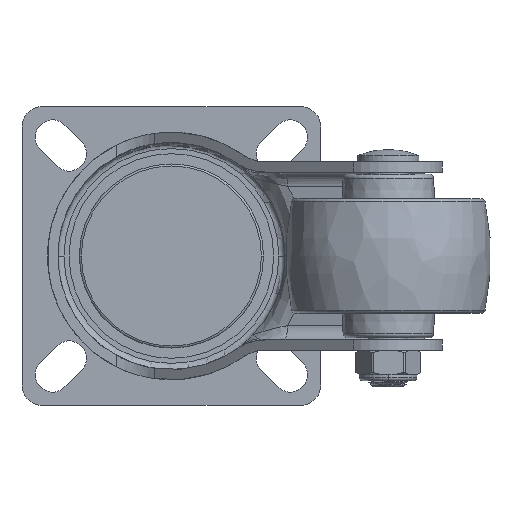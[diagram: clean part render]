
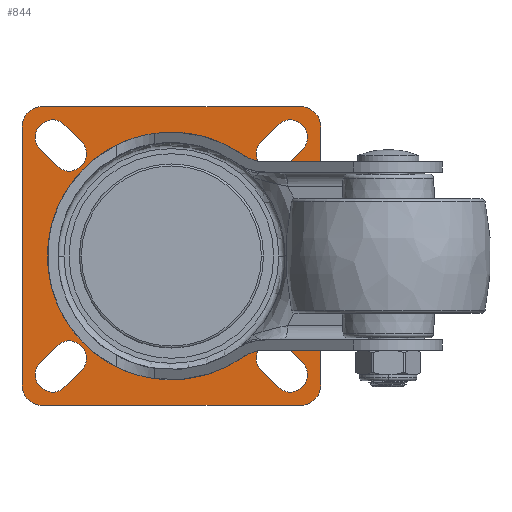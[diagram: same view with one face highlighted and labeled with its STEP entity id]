
A CAD part, front view. The second image highlights one B-rep face of the part: STEP entity #844.
In plain terms, the highlighted planar face has unit normal (0, -1, 0).
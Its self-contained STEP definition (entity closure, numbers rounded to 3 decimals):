
#1=CARTESIAN_POINT('',(-29.,-3.,-29.));
#2=DIRECTION('',(0.,1.,0.));
#3=DIRECTION('',(0.707,0.,-0.707));
#4=AXIS2_PLACEMENT_3D('',#1,#2,#3);
#6=DIRECTION('',(-0.707,0.,-0.707));
#7=VECTOR('',#6,5.657);
#8=CARTESIAN_POINT('',(-21.995,-3.,-28.005));
#9=LINE('',#8,#7);
#10=CARTESIAN_POINT('',(-25.,-3.,-25.));
#11=DIRECTION('',(0.,1.,0.));
#12=DIRECTION('',(-0.707,0.,0.707));
#13=AXIS2_PLACEMENT_3D('',#10,#11,#12);
#15=DIRECTION('',(0.707,0.,0.707));
#16=VECTOR('',#15,5.657);
#17=CARTESIAN_POINT('',(-32.005,-3.,-25.995));
#18=LINE('',#17,#16);
#19=DIRECTION('',(-0.707,0.,0.707));
#20=VECTOR('',#19,5.657);
#21=CARTESIAN_POINT('',(25.995,-3.,-32.005));
#22=LINE('',#21,#20);
#23=CARTESIAN_POINT('',(29.,-3.,-29.));
#24=DIRECTION('',(0.,1.,0.));
#25=DIRECTION('',(0.707,0.,0.707));
#26=AXIS2_PLACEMENT_3D('',#23,#24,#25);
#28=DIRECTION('',(0.707,0.,-0.707));
#29=VECTOR('',#28,5.657);
#30=CARTESIAN_POINT('',(28.005,-3.,-21.995));
#31=LINE('',#30,#29);
#32=CARTESIAN_POINT('',(25.,-3.,-25.));
#33=DIRECTION('',(0.,1.,0.));
#34=DIRECTION('',(-0.707,0.,-0.707));
#35=AXIS2_PLACEMENT_3D('',#32,#33,#34);
#37=CARTESIAN_POINT('',(29.,-3.,29.));
#38=DIRECTION('',(0.,1.,0.));
#39=DIRECTION('',(-0.707,0.,0.707));
#40=AXIS2_PLACEMENT_3D('',#37,#38,#39);
#42=DIRECTION('',(0.707,0.,0.707));
#43=VECTOR('',#42,5.657);
#44=CARTESIAN_POINT('',(21.995,-3.,28.005));
#45=LINE('',#44,#43);
#46=CARTESIAN_POINT('',(25.,-3.,25.));
#47=DIRECTION('',(0.,1.,0.));
#48=DIRECTION('',(0.707,0.,-0.707));
#49=AXIS2_PLACEMENT_3D('',#46,#47,#48);
#51=DIRECTION('',(-0.707,0.,-0.707));
#52=VECTOR('',#51,5.657);
#53=CARTESIAN_POINT('',(32.005,-3.,25.995));
#54=LINE('',#53,#52);
#55=DIRECTION('',(0.707,0.,-0.707));
#56=VECTOR('',#55,5.657);
#57=CARTESIAN_POINT('',(-25.995,-3.,32.005));
#58=LINE('',#57,#56);
#59=CARTESIAN_POINT('',(-29.,-3.,29.));
#60=DIRECTION('',(0.,1.,0.));
#61=DIRECTION('',(-0.707,0.,-0.707));
#62=AXIS2_PLACEMENT_3D('',#59,#60,#61);
#64=DIRECTION('',(-0.707,0.,0.707));
#65=VECTOR('',#64,5.657);
#66=CARTESIAN_POINT('',(-28.005,-3.,21.995));
#67=LINE('',#66,#65);
#68=CARTESIAN_POINT('',(-25.,-3.,25.));
#69=DIRECTION('',(0.,1.,0.));
#70=DIRECTION('',(0.707,0.,0.707));
#71=AXIS2_PLACEMENT_3D('',#68,#69,#70);
#73=CARTESIAN_POINT('',(31.5,-3.,31.5));
#74=DIRECTION('',(0.,-1.,0.));
#75=DIRECTION('',(1.,0.,0.));
#76=AXIS2_PLACEMENT_3D('',#73,#74,#75);
#78=DIRECTION('',(0.,0.,1.));
#79=VECTOR('',#78,63.);
#80=CARTESIAN_POINT('',(36.5,-3.,-31.5));
#81=LINE('',#80,#79);
#82=CARTESIAN_POINT('',(31.5,-3.,-31.5));
#83=DIRECTION('',(0.,-1.,0.));
#84=DIRECTION('',(0.,0.,-1.));
#85=AXIS2_PLACEMENT_3D('',#82,#83,#84);
#87=DIRECTION('',(1.,0.,0.));
#88=VECTOR('',#87,63.);
#89=CARTESIAN_POINT('',(-31.5,-3.,-36.5));
#90=LINE('',#89,#88);
#91=CARTESIAN_POINT('',(-31.5,-3.,-31.5));
#92=DIRECTION('',(0.,-1.,0.));
#93=DIRECTION('',(-1.,0.,0.));
#94=AXIS2_PLACEMENT_3D('',#91,#92,#93);
#96=DIRECTION('',(0.,0.,-1.));
#97=VECTOR('',#96,63.);
#98=CARTESIAN_POINT('',(-36.5,-3.,31.5));
#99=LINE('',#98,#97);
#100=CARTESIAN_POINT('',(-31.5,-3.,31.5));
#101=DIRECTION('',(0.,-1.,0.));
#102=DIRECTION('',(0.,0.,1.));
#103=AXIS2_PLACEMENT_3D('',#100,#101,#102);
#105=DIRECTION('',(-1.,0.,0.));
#106=VECTOR('',#105,63.);
#107=CARTESIAN_POINT('',(31.5,-3.,36.5));
#108=LINE('',#107,#106);
#114=CARTESIAN_POINT('',(0.,-3.,0.));
#115=DIRECTION('',(0.,1.,0.));
#116=DIRECTION('',(-1.,0.,0.));
#117=AXIS2_PLACEMENT_3D('',#114,#115,#116);
#124=CARTESIAN_POINT('',(0.,-3.,0.));
#125=DIRECTION('',(0.,-1.,0.));
#126=DIRECTION('',(-1.,0.,0.));
#127=AXIS2_PLACEMENT_3D('',#124,#125,#126);
#611=CARTESIAN_POINT('',(-24.186,-3.,0.));
#613=VERTEX_POINT('',#611);
#635=CARTESIAN_POINT('',(24.186,-3.,0.));
#637=VERTEX_POINT('',#635);
#659=CARTESIAN_POINT('',(-25.995,-3.,
-32.005));
#660=CARTESIAN_POINT('',(-32.005,-3.,
-25.995));
#661=VERTEX_POINT('',#659);
#662=VERTEX_POINT('',#660);
#663=CARTESIAN_POINT('',(-28.005,-3.,
-21.995));
#664=VERTEX_POINT('',#663);
#665=CARTESIAN_POINT('',(-21.995,-3.,
-28.005));
#666=VERTEX_POINT('',#665);
#667=CARTESIAN_POINT('',(25.995,-3.,-32.005));
#668=CARTESIAN_POINT('',(21.995,-3.,-28.005));
#669=VERTEX_POINT('',#667);
#670=VERTEX_POINT('',#668);
#671=CARTESIAN_POINT('',(28.005,-3.,-21.995));
#672=VERTEX_POINT('',#671);
#673=CARTESIAN_POINT('',(32.005,-3.,-25.995));
#674=VERTEX_POINT('',#673);
#675=CARTESIAN_POINT('',(25.995,-3.,32.005));
#676=CARTESIAN_POINT('',(32.005,-3.,25.995));
#677=VERTEX_POINT('',#675);
#678=VERTEX_POINT('',#676);
#679=CARTESIAN_POINT('',(28.005,-3.,21.995));
#680=VERTEX_POINT('',#679);
#681=CARTESIAN_POINT('',(21.995,-3.,28.005));
#682=VERTEX_POINT('',#681);
#683=CARTESIAN_POINT('',(-25.995,-3.,32.005));
#684=CARTESIAN_POINT('',(-21.995,-3.,28.005));
#685=VERTEX_POINT('',#683);
#686=VERTEX_POINT('',#684);
#687=CARTESIAN_POINT('',(-28.005,-3.,21.995));
#688=VERTEX_POINT('',#687);
#689=CARTESIAN_POINT('',(-32.005,-3.,25.995));
#690=VERTEX_POINT('',#689);
#727=CARTESIAN_POINT('',(36.5,-3.,31.5));
#728=VERTEX_POINT('',#727);
#729=CARTESIAN_POINT('',(31.5,-3.,36.5));
#730=VERTEX_POINT('',#729);
#735=CARTESIAN_POINT('',(-31.5,-3.,36.5));
#736=VERTEX_POINT('',#735);
#737=CARTESIAN_POINT('',(-36.5,-3.,31.5));
#738=VERTEX_POINT('',#737);
#743=CARTESIAN_POINT('',(-36.5,-3.,-31.5));
#744=VERTEX_POINT('',#743);
#745=CARTESIAN_POINT('',(-31.5,-3.,-36.5));
#746=VERTEX_POINT('',#745);
#751=CARTESIAN_POINT('',(31.5,-3.,-36.5));
#752=VERTEX_POINT('',#751);
#753=CARTESIAN_POINT('',(36.5,-3.,-31.5));
#754=VERTEX_POINT('',#753);
#775=CARTESIAN_POINT('',(0.,-3.,0.));
#776=DIRECTION('',(0.,-1.,0.));
#777=DIRECTION('',(-1.,0.,0.));
#778=AXIS2_PLACEMENT_3D('',#775,#776,#777);
#779=PLANE('',#778);
#781=ORIENTED_EDGE('',*,*,#780,.F.);
#783=ORIENTED_EDGE('',*,*,#782,.F.);
#785=ORIENTED_EDGE('',*,*,#784,.F.);
#787=ORIENTED_EDGE('',*,*,#786,.F.);
#789=ORIENTED_EDGE('',*,*,#788,.F.);
#791=ORIENTED_EDGE('',*,*,#790,.F.);
#793=ORIENTED_EDGE('',*,*,#792,.F.);
#795=ORIENTED_EDGE('',*,*,#794,.F.);
#796=EDGE_LOOP('',(#781,#783,#785,#787,#789,#791,#793,#795));
#797=FACE_OUTER_BOUND('',#796,.F.);
#799=ORIENTED_EDGE('',*,*,#798,.F.);
#801=ORIENTED_EDGE('',*,*,#800,.F.);
#803=ORIENTED_EDGE('',*,*,#802,.F.);
#805=ORIENTED_EDGE('',*,*,#804,.F.);
#806=EDGE_LOOP('',(#799,#801,#803,#805));
#807=FACE_BOUND('',#806,.F.);
#809=ORIENTED_EDGE('',*,*,#808,.F.);
#811=ORIENTED_EDGE('',*,*,#810,.F.);
#813=ORIENTED_EDGE('',*,*,#812,.F.);
#815=ORIENTED_EDGE('',*,*,#814,.F.);
#816=EDGE_LOOP('',(#809,#811,#813,#815));
#817=FACE_BOUND('',#816,.F.);
#819=ORIENTED_EDGE('',*,*,#818,.F.);
#821=ORIENTED_EDGE('',*,*,#820,.F.);
#823=ORIENTED_EDGE('',*,*,#822,.F.);
#825=ORIENTED_EDGE('',*,*,#824,.F.);
#826=EDGE_LOOP('',(#819,#821,#823,#825));
#827=FACE_BOUND('',#826,.F.);
#829=ORIENTED_EDGE('',*,*,#828,.F.);
#831=ORIENTED_EDGE('',*,*,#830,.F.);
#833=ORIENTED_EDGE('',*,*,#832,.F.);
#835=ORIENTED_EDGE('',*,*,#834,.F.);
#836=EDGE_LOOP('',(#829,#831,#833,#835));
#837=FACE_BOUND('',#836,.F.);
#839=ORIENTED_EDGE('',*,*,#838,.F.);
#841=ORIENTED_EDGE('',*,*,#840,.T.);
#842=EDGE_LOOP('',(#839,#841));
#843=FACE_BOUND('',#842,.F.);
#5=CIRCLE('',#4,4.25);
#14=CIRCLE('',#13,4.25);
#27=CIRCLE('',#26,4.25);
#36=CIRCLE('',#35,4.25);
#41=CIRCLE('',#40,4.25);
#50=CIRCLE('',#49,4.25);
#63=CIRCLE('',#62,4.25);
#72=CIRCLE('',#71,4.25);
#77=CIRCLE('',#76,5.);
#86=CIRCLE('',#85,5.);
#95=CIRCLE('',#94,5.);
#104=CIRCLE('',#103,5.);
#118=CIRCLE('',#117,24.186);
#128=CIRCLE('',#127,24.186);
#780=EDGE_CURVE('',#728,#730,#77,.T.);
#782=EDGE_CURVE('',#754,#728,#81,.T.);
#784=EDGE_CURVE('',#752,#754,#86,.T.);
#786=EDGE_CURVE('',#746,#752,#90,.T.);
#788=EDGE_CURVE('',#744,#746,#95,.T.);
#790=EDGE_CURVE('',#738,#744,#99,.T.);
#792=EDGE_CURVE('',#736,#738,#104,.T.);
#794=EDGE_CURVE('',#730,#736,#108,.T.);
#798=EDGE_CURVE('',#661,#662,#5,.T.);
#800=EDGE_CURVE('',#666,#661,#9,.T.);
#802=EDGE_CURVE('',#664,#666,#14,.T.);
#804=EDGE_CURVE('',#662,#664,#18,.T.);
#808=EDGE_CURVE('',#669,#670,#22,.T.);
#810=EDGE_CURVE('',#674,#669,#27,.T.);
#812=EDGE_CURVE('',#672,#674,#31,.T.);
#814=EDGE_CURVE('',#670,#672,#36,.T.);
#818=EDGE_CURVE('',#677,#678,#41,.T.);
#820=EDGE_CURVE('',#682,#677,#45,.T.);
#822=EDGE_CURVE('',#680,#682,#50,.T.);
#824=EDGE_CURVE('',#678,#680,#54,.T.);
#828=EDGE_CURVE('',#685,#686,#58,.T.);
#830=EDGE_CURVE('',#690,#685,#63,.T.);
#832=EDGE_CURVE('',#688,#690,#67,.T.);
#834=EDGE_CURVE('',#686,#688,#72,.T.);
#838=EDGE_CURVE('',#613,#637,#118,.T.);
#840=EDGE_CURVE('',#613,#637,#128,.T.);
#844=ADVANCED_FACE('',(#797,#807,#817,#827,#837,#843),#779,.T.);
